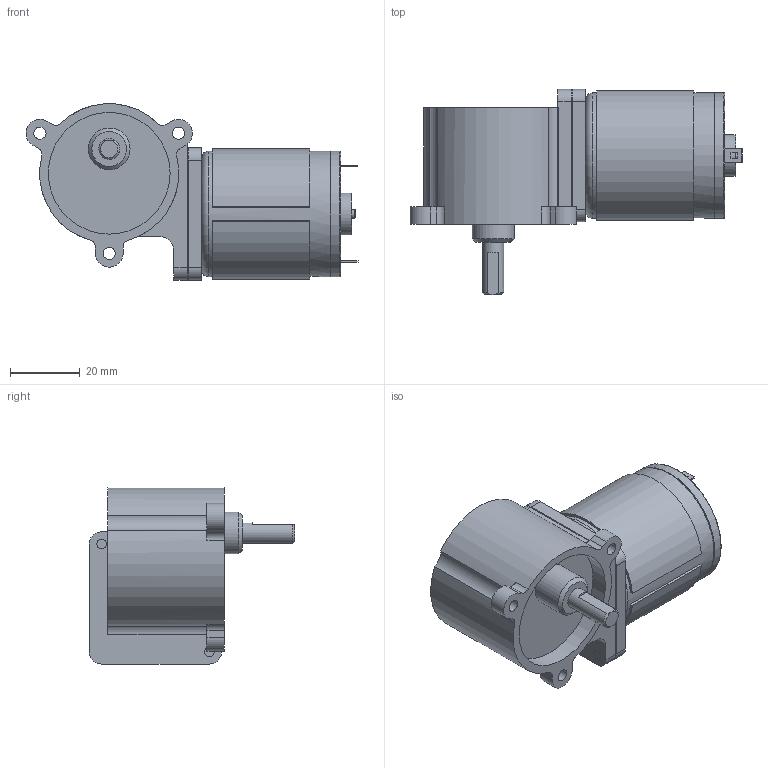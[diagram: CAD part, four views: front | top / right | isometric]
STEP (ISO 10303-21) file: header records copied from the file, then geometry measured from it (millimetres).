
FILE_DESCRIPTION((''),'2;1');
FILE_NAME('C:\Documents and Settings\SSEGAWA\デスクトップ\TP-3640B-KW.STP','2013-07-18T17:30:46',('SSEGAWA'),(''),'Autodesk Inventor 2010','Autodesk Inventor 2010','');
FILE_SCHEMA(('CONFIG_CONTROL_DESIGN'));
Length unit declared in the file: millimetre
Products named in the file (1): tp_3640bce_kw_Shrinkwrap_1
Bounding box: 95.42 x 59 x 50.63 mm (x, y, z)
Volume: 94733.8 mm3; surface area: 16991.4 mm2
Topology: 1 solids, 4 shells, 140 faces, 338 edges, 225 vertices
Faces by surface type: plane 73, cylinder 42, bspline 19, cone 3, torus 3
Full cylindrical faces by diameter (mm): 2.5 x2, 4 x1, 4.5 x1, 6 x1, 9.3 x1, 10 x1, 12 x2, 35 x1, 35.6 x1, 36 x2
Entity records: 4186 total; most frequent: CARTESIAN_POINT 865, DIRECTION 656, ORIENTED_EDGE 592, EDGE_CURVE 296, AXIS2_PLACEMENT_3D 240, VERTEX_POINT 213, EDGE_LOOP 201, VECTOR 176
